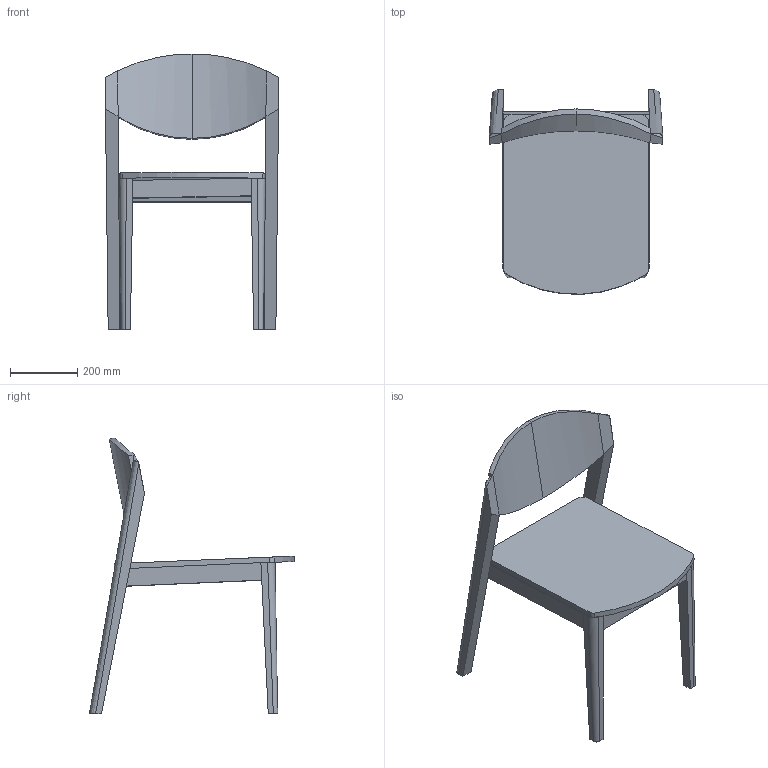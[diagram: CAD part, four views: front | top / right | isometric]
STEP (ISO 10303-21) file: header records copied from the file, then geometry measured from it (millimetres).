
FILE_DESCRIPTION(/* description */ (''),/* implementation_level */ '2;1');
FILE_NAME(/* name */ 'BBB',/* time_stamp */ '2023-12-12T21:30:29+01:00',/* author */ (''),/* organization */ (''),/* preprocessor_version */ 'ST-DEVELOPER v15',/* originating_system */ '',/* authorisation */ '');
FILE_SCHEMA (('AUTOMOTIVE_DESIGN'));
Length unit declared in the file: millimetre
Products named in the file (1): Document
Bounding box: 515.99 x 608.74 x 819.3 mm (x, y, z)
Volume: 6599480.2 mm3; surface area: 1368473.9 mm2
Topology: 6 solids, 16 shells, 74 faces, 190 edges, 131 vertices
Faces by surface type: bspline 50, plane 24
Entity records: 2805 total; most frequent: CARTESIAN_POINT 1525, ORIENTED_EDGE 306, EDGE_CURVE 186, B_SPLINE_CURVE_WITH_KNOTS 132, VERTEX_POINT 130, ADVANCED_FACE 74, FACE_OUTER_BOUND 74, EDGE_LOOP 74
